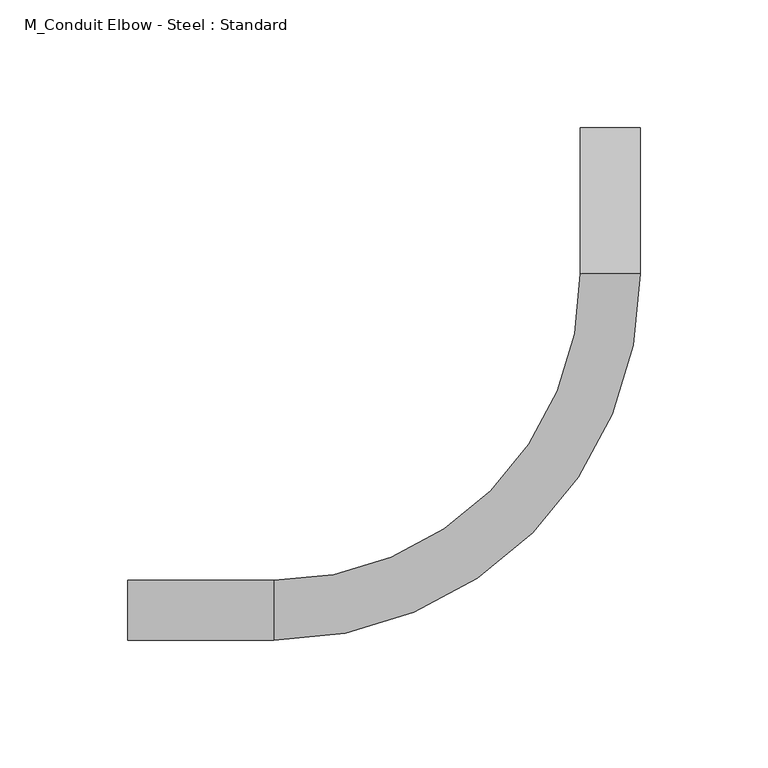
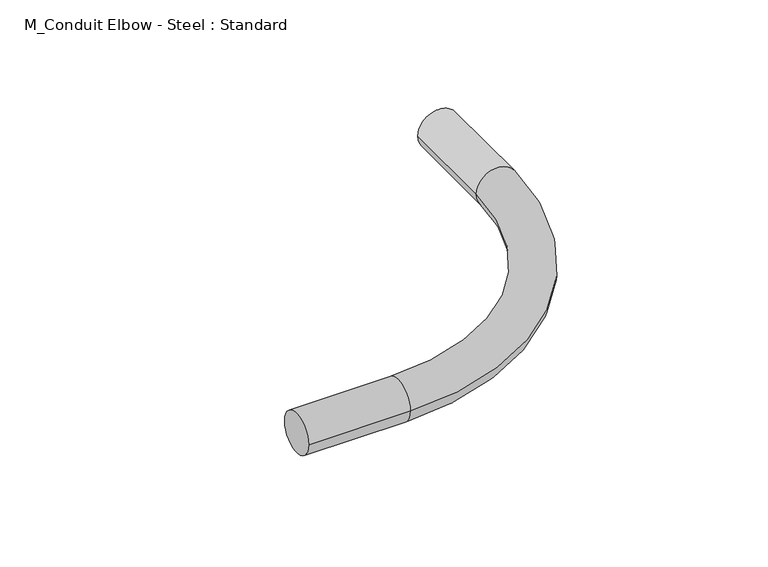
"""IFC4 building model written with IfcOpenShell, lengths in millimetres: cable carrier fitting geometry, M_Conduit Elbow - Steel : Standard."""

import ifcopenshell
import ifcopenshell.guid

model = None  # the IFC model being written
_history = None  # IfcOwnerHistory: only IFC2X3 demands one
_inside = {}  # id of a spatial element -> (the spatial element, [elements in it])
_under = {}  # id of a project, library or spatial element -> (it, [spatial elements below it])
_declared = {}  # id of a project -> (the project, [libraries it declares])
_typed = {}  # id of a type object -> (the type object, [elements of that type])
_made_of = {}  # id of a material, layer set ... -> (it, [elements and type objects made of it])


def new_model(schema):
    """Start an empty IFC model of exactly this schema.

    Asked for "IFC4X3", IfcOpenShell would pick the latest addendum, in which some entities
    have other attributes; the version numbers below select the first issue.
    IFC2X3 requires an IfcOwnerHistory on every rooted entity: one is made here for all.
    """
    global model, _history
    if schema == "IFC4X3":
        model = ifcopenshell.file(schema_version=(4, 3, 0, 0))
    else:
        model = ifcopenshell.file(schema=schema)
    _inside.clear()
    _under.clear()
    _declared.clear()
    _typed.clear()
    _made_of.clear()
    _history = None
    if model.schema == "IFC2X3":
        org = make("IfcOrganization", Name="unknown")
        user = make(
            "IfcPersonAndOrganization",
            ThePerson=make("IfcPerson", FamilyName="unknown"),
            TheOrganization=org,
        )
        app = make(
            "IfcApplication",
            ApplicationDeveloper=org,
            Version="unknown",
            ApplicationFullName="unknown",
            ApplicationIdentifier="unknown",
        )
        _history = make(
            "IfcOwnerHistory",
            OwningUser=user,
            OwningApplication=app,
            ChangeAction="ADDED",
            CreationDate=0,
        )
    return model


def make(cls, **values):
    """One entity of the class cls with the attributes given. An attribute that is None is left unset."""
    return model.create_entity(
        cls, **{name: value for name, value in values.items() if value is not None}
    )


def rooted(cls, **values):
    """An entity with a GlobalId (a new one), such as an element, a storey or a relation."""
    return make(cls, GlobalId=ifcopenshell.guid.new(), OwnerHistory=_history, **values)


def si_unit(unit_type, name, prefix=None):
    """IfcSIUnit, for example si_unit("LENGTHUNIT", "METRE", prefix="MILLI")."""
    return make("IfcSIUnit", UnitType=unit_type, Prefix=prefix, Name=name)


def assignment(units):
    """IfcUnitAssignment: the units of a project."""
    return None if units is None else make("IfcUnitAssignment", Units=units)


def point(xyz):
    """IfcCartesianPoint."""
    return None if xyz is None else make("IfcCartesianPoint", Coordinates=xyz)


def direction(xyz):
    """IfcDirection."""
    return None if xyz is None else make("IfcDirection", DirectionRatios=xyz)


def frame(location, z_axis=None, x_axis=None):
    """IfcAxis2Placement3D, a coordinate frame: its origin and axes. An axis left out is left unset."""
    return make(
        "IfcAxis2Placement3D",
        Location=point(location),
        Axis=direction(z_axis),
        RefDirection=direction(x_axis),
    )


def origin():
    """The frame at (0, 0, 0) with its axes left unset."""
    return frame((0.0, 0.0, 0.0))


def place(relative_to, where):
    """IfcLocalPlacement: puts the frame where relative to a parent placement (None: the world)."""
    return make(
        "IfcLocalPlacement", PlacementRelTo=relative_to, RelativePlacement=where
    )


def context(
    kind, dimensions, precision=None, world=None, true_north=None, identifier=None
):
    """IfcGeometricRepresentationContext, for example the 3D "Model" context."""
    return make(
        "IfcGeometricRepresentationContext",
        ContextIdentifier=identifier,
        ContextType=kind,
        CoordinateSpaceDimension=dimensions,
        Precision=precision,
        WorldCoordinateSystem=world,
        TrueNorth=true_north,
    )


def project(units=None, contexts=None):
    """IfcProject with its units and contexts."""
    return rooted(
        "IfcProject",
        Name="project",
        RepresentationContexts=contexts,
        UnitsInContext=assignment(units),
    )


def spatial(cls, under=None, at=None, **own):
    """A site, building, storey or space (cls), placed at a placement, below another one or the project."""
    s = rooted(cls, ObjectPlacement=at, **own)
    if under is not None:
        _under.setdefault(under.id(), (under, []))[1].append(s)
    return s


def circle_curve(where, radius):
    """IfcCircle in the frame where."""
    return make("IfcCircle", Position=where, Radius=radius)


def ellipse_curve(where, semi_axis1, semi_axis2):
    """IfcEllipse in the frame where."""
    return make(
        "IfcEllipse", Position=where, SemiAxis1=semi_axis1, SemiAxis2=semi_axis2
    )


def trimmed(basis, trim1, trim2, sense, master):
    """IfcTrimmedCurve: the piece of a basis curve between two trims."""
    return make(
        "IfcTrimmedCurve",
        BasisCurve=basis,
        Trim1=trim1,
        Trim2=trim2,
        SenseAgreement=sense,
        MasterRepresentation=master,
    )


def shape(context_of_items, identifier, shape_type, items):
    """IfcShapeRepresentation: the items that make up one representation, for example the "Body"."""
    return make(
        "IfcShapeRepresentation",
        ContextOfItems=context_of_items,
        RepresentationIdentifier=identifier,
        RepresentationType=shape_type,
        Items=items,
    )


def source(mapping_origin, context_of_items, identifier, shape_type, items):
    """IfcRepresentationMap: a shape defined once, which mapped items show again and again."""
    return make(
        "IfcRepresentationMap",
        MappingOrigin=mapping_origin,
        MappedRepresentation=shape(context_of_items, identifier, shape_type, items),
    )


def transform(
    local_origin,
    x_axis=None,
    y_axis=None,
    z_axis=None,
    scale=None,
    scale2=None,
    scale3=None,
    uniform=True,
):
    """IfcCartesianTransformationOperator3D, or its non-uniform kind. x_axis, y_axis, z_axis: its Axis1, 2, 3."""
    if uniform:
        return make(
            "IfcCartesianTransformationOperator3D",
            Axis1=direction(x_axis),
            Axis2=direction(y_axis),
            LocalOrigin=point(local_origin),
            Scale=scale,
            Axis3=direction(z_axis),
        )
    return make(
        "IfcCartesianTransformationOperator3DnonUniform",
        Axis1=direction(x_axis),
        Axis2=direction(y_axis),
        LocalOrigin=point(local_origin),
        Scale=scale,
        Axis3=direction(z_axis),
        Scale2=scale2,
        Scale3=scale3,
    )


def mapped(mapping_source, mapping_target):
    """IfcMappedItem: shows the shape of a source again, moved by a transform."""
    return make(
        "IfcMappedItem", MappingSource=mapping_source, MappingTarget=mapping_target
    )


def made_of(thing, what):
    """Note that an element or type object is made of a material, layer set ...; save() writes the relation."""
    if what is not None:
        _made_of.setdefault(what.id(), (what, []))[1].append(thing)
    return thing


def element(
    cls,
    number,
    at=None,
    inside=None,
    cuts=None,
    type_object=None,
    material=None,
    context=None,
    identifier="Body",
    shape_type=None,
    held_by="IfcProductDefinitionShape",
    body=None,
    shapes=None,
    **own,
):
    """One element of the class cls, such as IfcWall. Its Tag is "e" and its number.

    at: its placement. inside: the storey or other place that contains it. cuts: it is an
    opening in that element (IfcRelVoidsElement). A single representation is given by context,
    identifier, shape_type and body (its items); several are given by shapes. held_by: the class
    of the entity that holds the representations. save() writes the other relations.
    """
    e = rooted(cls, Tag="e%d" % number, ObjectPlacement=at, **own)
    if body is not None:
        shapes = [shape(context, identifier, shape_type, body)]
    if shapes is not None:
        e.Representation = make(held_by, Representations=shapes)
    if inside is not None:
        _inside.setdefault(inside.id(), (inside, []))[1].append(e)
    if cuts is not None:
        rooted(
            "IfcRelVoidsElement", RelatingBuildingElement=cuts, RelatedOpeningElement=e
        )
    if type_object is not None:
        _typed.setdefault(type_object.id(), (type_object, []))[1].append(e)
    return made_of(e, material)


def aggregate(whole, parts):
    """IfcRelAggregates: a whole, such as a stair, and the parts it consists of."""
    return rooted("IfcRelAggregates", RelatingObject=whole, RelatedObjects=parts)


def save(model, path):
    """Write the relations noted so far, then the file.

    IfcRelAggregates (storeys below a building ...), IfcRelContainedInSpatialStructure (elements
    in a storey), IfcRelDefinesByType, IfcRelAssociatesMaterial and IfcRelDeclares: one each for
    every whole, place, type object, material and project.
    """
    for whole, parts in _under.values():
        aggregate(whole, parts)
    for where, things in _inside.values():
        rooted(
            "IfcRelContainedInSpatialStructure",
            RelatedElements=things,
            RelatingStructure=where,
        )
    for kind, things in _typed.values():
        rooted("IfcRelDefinesByType", RelatedObjects=things, RelatingType=kind)
    for what, things in _made_of.values():
        rooted("IfcRelAssociatesMaterial", RelatedObjects=things, RelatingMaterial=what)
    for by, libraries in _declared.values():
        rooted("IfcRelDeclares", RelatingContext=by, RelatedDefinitions=libraries)
    model.write(path)


def plane_surface(at):
    """IfcPlane: the flat surface through the origin of the frame at, square to its z axis."""
    return make("IfcPlane", Position=at)


def cylinder_surface(at, radius):
    """IfcCylindricalSurface: all points at the distance radius from the z axis of the frame at."""
    return make("IfcCylindricalSurface", Position=at, Radius=radius)


def revolved_surface(curve, axis_point, axis_direction):
    """IfcSurfaceOfRevolution: the curve turned about the line through axis_point along axis_direction."""
    return make(
        "IfcSurfaceOfRevolution",
        SweptCurve=make("IfcArbitraryOpenProfileDef", ProfileType="CURVE", Curve=curve),
        AxisPosition=make("IfcAxis1Placement", Location=point(axis_point), Axis=direction(axis_direction)),
    )


def advanced_brep(points, edges, surfaces, faces):
    """IfcAdvancedBrep: a solid bounded by faces that lie on surfaces and meet in shared edges.

    An edge is (start, end): straight between two places in points (the first is 0);
    or (start, end, curve); or (start, end, curve, False) where it runs against its curve.
    A face is (place in surfaces, loops), or (place, loops, False) where it looks against
    its surface's normal. A loop lists edges by number (the first is 1), with a minus sign
    where the edge is run from its end to its start. The first loop is the outer one.
    """
    corners = [point(p) for p in points]
    vertices = [make("IfcVertexPoint", VertexGeometry=c) for c in corners]
    made = []
    for start, end, *more in edges:
        made.append(
            make(
                "IfcEdgeCurve",
                EdgeStart=vertices[start],
                EdgeEnd=vertices[end],
                EdgeGeometry=more[0] if more else make("IfcPolyline", Points=[corners[start], corners[end]]),
                SameSense=more[1] if len(more) > 1 else True,
            )
        )
    hull = []
    for where, loops, *sense in faces:
        bounds = []
        for j, loop in enumerate(loops):
            ring = [make("IfcOrientedEdge", EdgeElement=made[abs(k) - 1], Orientation=k > 0) for k in loop]
            bounds.append(
                make(
                    "IfcFaceOuterBound" if j == 0 else "IfcFaceBound",
                    Bound=make("IfcEdgeLoop", EdgeList=ring),
                    Orientation=True,
                )
            )
        hull.append(make("IfcAdvancedFace", Bounds=bounds, FaceSurface=surfaces[where], SameSense=sense[0] if sense else True))
    return make("IfcAdvancedBrep", Outer=make("IfcClosedShell", CfsFaces=hull))


def m_conduit_elbow_steel_standard_971282f7(model_context):
    return source(origin(), model_context, "Body", "AdvancedBrep", [
        advanced_brep(
        [(-188.9121439, -11.7094, 0.0), (-188.9121439, 11.7094, 0.0), (-131.7621439, -11.7094, 0.0), (-131.7621439, 11.7094, 0.0), (-11.7090439, 131.7621756, 0.0), (11.7097561, 131.7621123, 0.0), (11.7099105, 188.9121123, 0.0), (-11.7088895, 188.9121756, 0.0)],
        [
            (0, 1, circle_curve(frame((-188.9121439, 0.0, 0.0), z_axis=(-1.0, 0.0, 0.0), x_axis=(0.0, 1.0, 0.0)), 11.7094)),
            (1, 0, circle_curve(frame((-188.9121439, 0.0, 0.0), z_axis=(-1.0, 0.0, 0.0), x_axis=(0.0, 1.0, 0.0)), 11.7094)),
            (0, 2),
            (2, 3, circle_curve(frame((-131.7621439, 0.0, 0.0), z_axis=(-1.0, 0.0, 0.0), x_axis=(0.0, 1.0, 0.0)), 11.7094)),
            (3, 1),
            (3, 2, circle_curve(frame((-131.7621439, 0.0, 0.0), z_axis=(-1.0, 0.0, 0.0), x_axis=(0.0, 1.0, 0.0)), 11.7094)),
            (4, 3, circle_curve(frame((-131.7621439, 131.7625, 0.0), z_axis=(0.0, 0.0, -1.0), x_axis=(0.0, -1.0, 0.0)), 120.0531)),
            (2, 5, circle_curve(frame((-131.7621439, 131.7625, 0.0), z_axis=(0.0, 0.0, 1.0), x_axis=(0.0, -1.0, 0.0)), 143.4719)),
            (5, 4, circle_curve(frame((0.0003561, 131.7621439, 0.0), z_axis=(-2.7022281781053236e-06, -0.999999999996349, 0.0), x_axis=(-0.999999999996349, 2.7022281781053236e-06, 0.0)), 11.7094)),
            (4, 5, circle_curve(frame((0.0003561, 131.7621439, 0.0), z_axis=(-2.702228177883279e-06, -0.999999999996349, 0.0), x_axis=(-0.999999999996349, 2.702228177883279e-06, 0.0)), 11.7094)),
            (6, 7, circle_curve(frame((0.0005105, 188.9121439, 0.0), z_axis=(2.7022281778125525e-06, 0.999999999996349, 0.0), x_axis=(-0.999999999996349, 2.7022281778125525e-06, 0.0)), 11.7094)),
            (7, 6, circle_curve(frame((0.0005105, 188.9121439, 0.0), z_axis=(2.7022281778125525e-06, 0.999999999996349, 0.0), x_axis=(-0.999999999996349, 2.7022281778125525e-06, 0.0)), 11.7094)),
            (5, 6),
            (7, 4),
        ],
        [
            plane_surface(frame((-188.9121439, 0.0, 0.0), z_axis=(-1.0, 0.0, 0.0), x_axis=(0.0, 0.0, 1.0))),
            cylinder_surface(frame((-188.9121439, 0.0, 0.0), z_axis=(-1.0, 0.0, 0.0), x_axis=(0.0, 1.0, 0.0)), 11.7094),
            revolved_surface(trimmed(ellipse_curve(frame((-131.7621439, 0.0, 0.0), z_axis=(-1.0, 0.0, 0.0), x_axis=(0.0, 1.0, 0.0)), 11.7094, 11.7094), [point((-131.7621439, -11.7094, 0.0))], [point((-131.7621439, 11.7094, 0.0))], True, "CARTESIAN"), (-131.7621439, 131.7625, 0.0), (0.0, 0.0, 1.0)),
            revolved_surface(trimmed(ellipse_curve(frame((-131.7621439, 0.0, 0.0), z_axis=(-1.0, 0.0, 0.0), x_axis=(0.0, 1.0, 0.0)), 11.7094, 11.7094), [point((-131.7621439, 11.7094, 0.0))], [point((-131.7621439, -11.7094, 0.0))], True, "CARTESIAN"), (-131.7621439, 131.7625, 0.0), (0.0, 0.0, 1.0)),
            plane_surface(frame((0.0005105, 188.9121439, 0.0), z_axis=(2.702228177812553e-06, 0.999999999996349, 0.0), x_axis=(0.0, 0.0, 1.0))),
            cylinder_surface(frame((0.0003561, 131.7621439, 0.0), z_axis=(-2.7022281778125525e-06, -0.999999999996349, 0.0), x_axis=(-0.999999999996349, 2.7022281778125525e-06, 0.0)), 11.7094),
        ],
        [
            (0, [[1, 2]]),
            (1, [[-1, 3, 4, 5]]),
            (1, [[-2, -5, 6, -3]]),
            (2, [[7, -4, 8, 9]]),
            (3, [[-8, -6, -7, 10]]),
            (4, [[11, 12]]),
            (5, [[-9, 13, -12, 14]]),
            (5, [[-10, -14, -11, -13]]),
        ],
    ),
    ])


if __name__ == "__main__":
    model = new_model("IFC4")
    model_context = context("Model", 3, world=origin())
    ifc_project = project(units=[si_unit("LENGTHUNIT", "METRE", prefix="MILLI")], contexts=[model_context])
    site = spatial("IfcSite", under=ifc_project)
    building = spatial("IfcBuilding", under=site)
    placement = place(None, origin())
    m_conduit_elbow_steel_standard_shape = m_conduit_elbow_steel_standard_971282f7(model_context)
    element("IfcCableCarrierFitting", 1, ObjectType="M_Conduit Elbow - Steel : Standard", at=placement, inside=building, context=model_context, shape_type="MappedRepresentation", body=[
        mapped(m_conduit_elbow_steel_standard_shape, transform((0.0, 0.0, 0.0), x_axis=(1.0, 0.0, 0.0), y_axis=(0.0, 1.0, 0.0), z_axis=(0.0, 0.0, 1.0))),
    ])
    save(model, "model.ifc")
